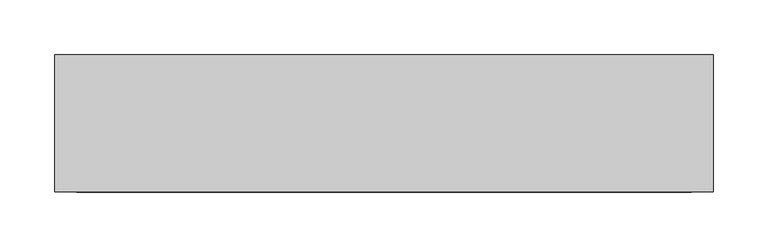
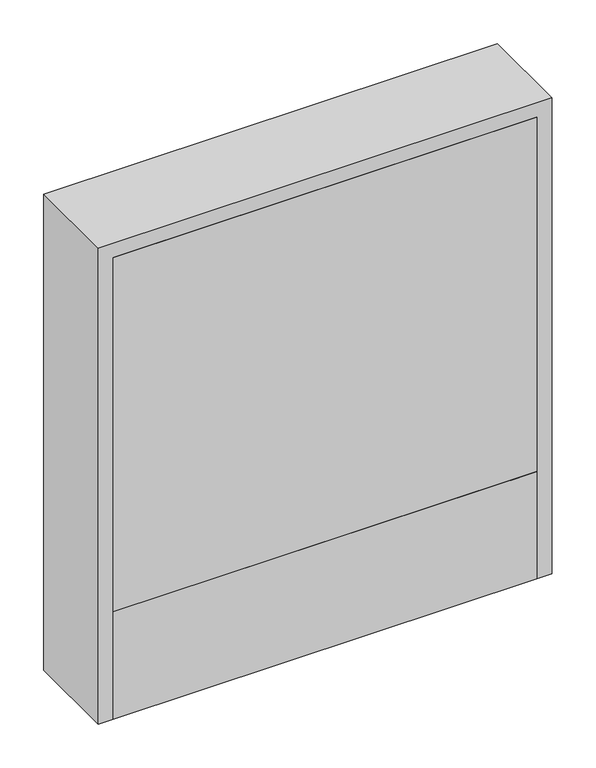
"""IFC4 building model written with IfcOpenShell, lengths in millimetres: valve geometry, PL AT Cabinet above plaster : FT-AK1 2-4 manifold loops."""

from ifc_helpers import new_model, si_unit, frame, origin, origin_with_axes, place, context, project, spatial, polyline, outline, extrude, source, transform, mapped, element, save


def valve_6665bde7(model_context):
    return source(origin(), model_context, "Body", "SweptSolid", [
        extrude(outline(polyline([(280.0, 0.0), (-280.0, 0.0), (-280.0, 125.0), (280.0, 125.0), (280.0, 0.0)])), origin_with_axes(), (0.0, 0.0, 1.0), 150.0),
        extrude(outline(polyline([(280.0, 0.0), (-280.0, 0.0), (-280.0, 125.0), (280.0, 125.0), (280.0, 0.0)])), frame((0.0, 0.0, 150.0), z_axis=(0.0, 0.0, 1.0), x_axis=(1.0, 0.0, 0.0)), (0.0, 0.0, 1.0), 495.0),
        extrude(outline(polyline([(665.0, 300.0), (665.0, -300.0), (0.0, -300.0), (0.0, -280.0), (645.0, -280.0), (645.0, 280.0), (0.0, 280.0), (0.0, 300.0), (665.0, 300.0)])), frame((0.0, 0.0, 0.0), z_axis=(0.0, 1.0, 0.0), x_axis=(0.0, 0.0, 1.0)), (0.0, 0.0, 1.0), 125.0),
    ])


if __name__ == "__main__":
    model = new_model("IFC4")
    model_context = context("Model", 3, world=origin())
    ifc_project = project(units=[si_unit("LENGTHUNIT", "METRE", prefix="MILLI")], contexts=[model_context])
    site = spatial("IfcSite", under=ifc_project)
    building = spatial("IfcBuilding", under=site)
    placement = place(None, origin())
    valve_shape = valve_6665bde7(model_context)
    element("IfcValve", 1, ObjectType="PL AT Cabinet above plaster : FT-AK1 2-4 manifold loops", at=placement, inside=building, context=model_context, shape_type="MappedRepresentation", body=[
        mapped(valve_shape, transform((0.0, 0.0, 0.0), x_axis=(1.0, 0.0, 0.0), y_axis=(0.0, 1.0, 0.0), z_axis=(0.0, 0.0, 1.0))),
    ])
    save(model, "model.ifc")
